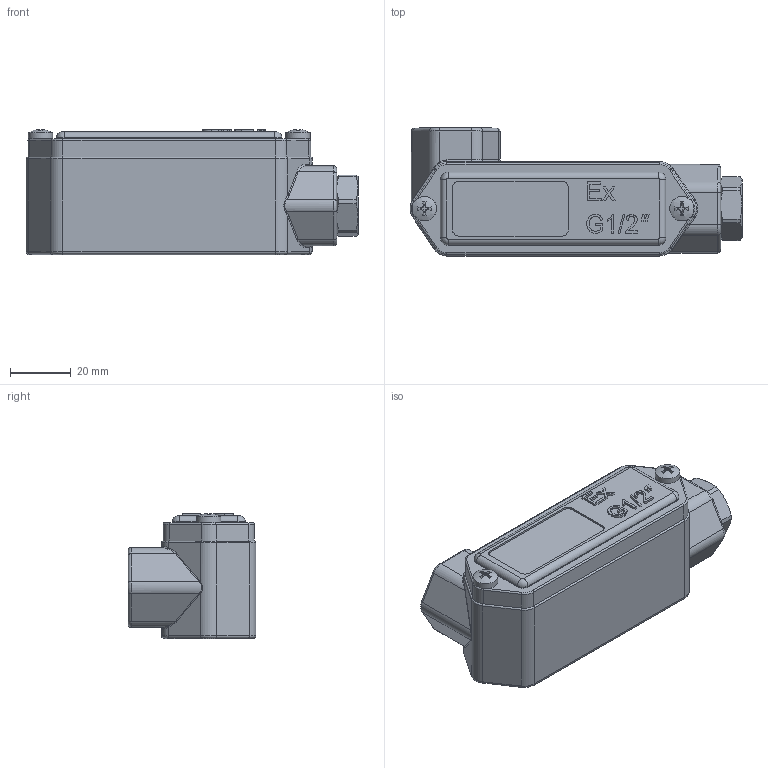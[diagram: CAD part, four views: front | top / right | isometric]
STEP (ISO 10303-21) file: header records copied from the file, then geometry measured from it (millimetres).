
FILE_DESCRIPTION (( 'STEP AP203' ), '1' );
FILE_NAME ('捗藍-衃1_3D.STEP', '2024-03-06T07:10:34', ( '' ), ( '' ), 'SwSTEP 2.0', 'SolidWorks 2018', '' );
FILE_SCHEMA (( 'CONFIG_CONTROL_DESIGN' ));
Length unit declared in the file: millimetre
Products named in the file (1): 捗藍-衃1_3D
Bounding box: 108.98 x 42 x 41.07 mm (x, y, z)
Volume: 50675.7 mm3; surface area: 32776.7 mm2
Topology: 1 solids, 5 shells, 413 faces, 1004 edges, 616 vertices
Faces by surface type: plane 182, cylinder 121, torus 51, bspline 39, cone 18, sphere 2
Full cylindrical faces by diameter (mm): 3.2 x2, 3.394 x2, 4 x2, 4.5 x2, 8 x2, 11.4 x1, 13.157 x1, 18.6 x2
Entity records: 14616 total; most frequent: CARTESIAN_POINT 5148, ORIENTED_EDGE 1948, DIRECTION 1931, EDGE_CURVE 974, AXIS2_PLACEMENT_3D 705, VERTEX_POINT 609, LINE 521, VECTOR 521
